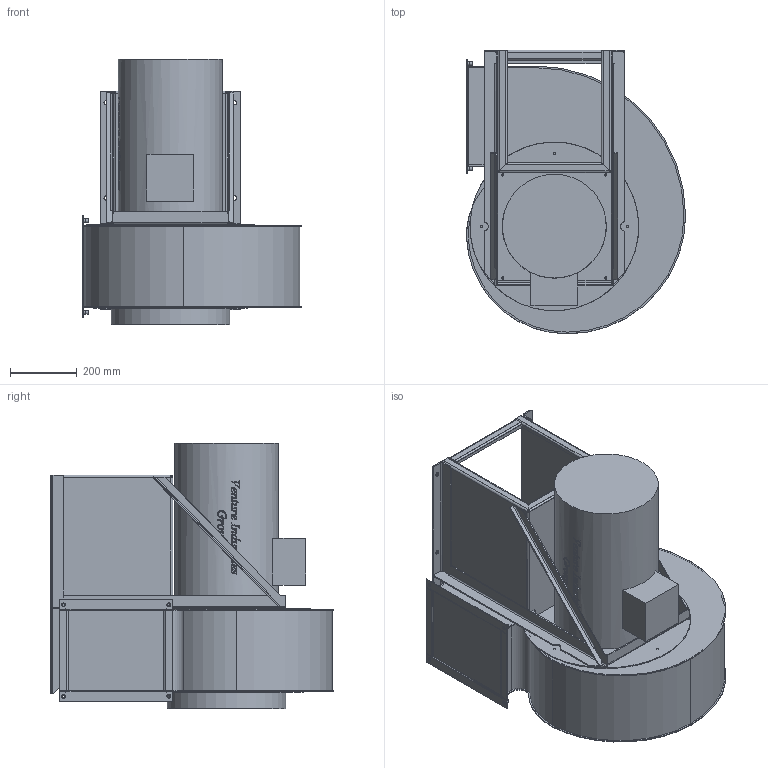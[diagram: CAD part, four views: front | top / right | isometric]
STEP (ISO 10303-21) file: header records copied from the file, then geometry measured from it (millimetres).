
FILE_DESCRIPTION(/* description */ (''),/* implementation_level */ '2;1');
FILE_NAME(/* name */ '\\VENTFPS\Baza\BAZA\BAZA\Modele uproszczone\GMT\GMT_800_1500_LG270_43551890\GMT_800_1500_LG270_43551890.stp',/* time_stamp */ '2019-03-29T12:30:27+01:00',/* author */ ('michalstar'),/* organization */ (''),/* preprocessor_version */ 'ST-DEVELOPER v16.13',/* originating_system */ 'Autodesk Inventor 2018',/* authorisation */ '');
FILE_SCHEMA (('AUTOMOTIVE_DESIGN { 1 0 10303 214 3 1 1 }'));
Products named in the file (1): GMT-800-1500
Bounding box: 655.7 x 848.2 x 794 mm (x, y, z)
Volume: 144287561.5 mm3; surface area: 4007756.3 mm2
Topology: 1 solids, 12 shells, 1278 faces, 3448 edges, 2225 vertices
Faces by surface type: plane 504, bspline 499, cylinder 211, cone 64
Full cylindrical faces by diameter (mm): 6 x16, 6.6 x16, 8 x4, 8.6 x4, 8.9 x16, 9.2 x8, 11 x4, 11.1 x2, 13 x6, 14.917 x1, 16 x2, 17 x1, 42 x1, 310.8 x1, 352 x2, 355 x2, 414 x1, 460 x1, 505 x1
Entity records: 44051 total; most frequent: CARTESIAN_POINT 15983, ORIENTED_EDGE 6454, DIRECTION 4340, EDGE_CURVE 3227, VERTEX_POINT 2168, LINE 1646, VECTOR 1646, EDGE_LOOP 1523
